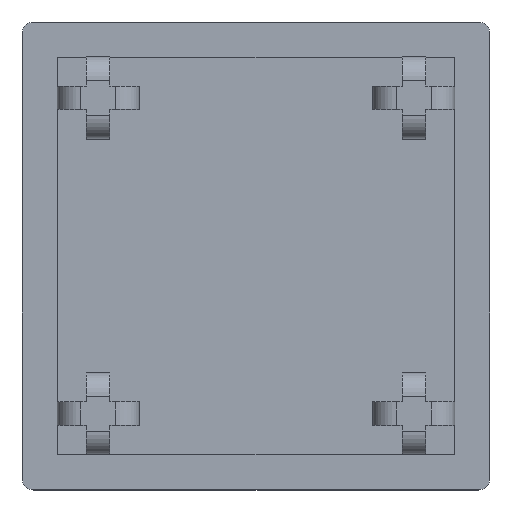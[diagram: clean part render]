
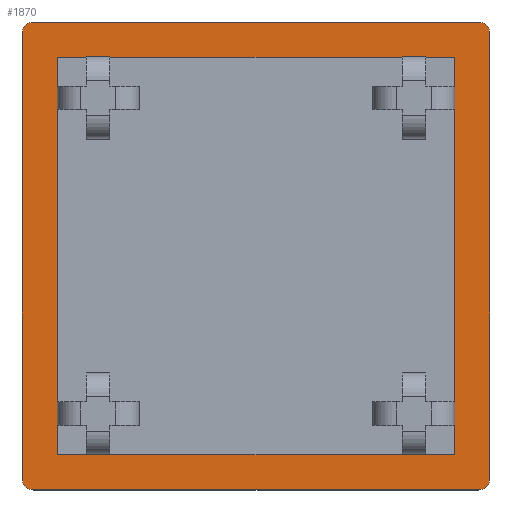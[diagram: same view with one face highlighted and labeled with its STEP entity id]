
A CAD part, top view. The second image highlights one B-rep face of the part: STEP entity #1870.
In plain terms, the highlighted planar face has unit normal (0, 0, 1).
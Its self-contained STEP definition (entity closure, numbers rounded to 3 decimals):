
#14=FACE_BOUND('',#231,.T.);
#43=PLANE('',#2019);
#135=FACE_OUTER_BOUND('',#230,.T.);
#230=EDGE_LOOP('',(#1417,#1418,#1419,#1420,#1421,#1422,#1423,#1424));
#231=EDGE_LOOP('',(#1425,#1426,#1427,#1428,#1429,#1430,#1431,#1432,#1433,
#1434,#1435,#1436,#1437,#1438,#1439,#1440,#1441,#1442,#1443,#1444));
#289=LINE('',#2590,#509);
#322=LINE('',#2673,#542);
#331=LINE('',#2696,#551);
#355=LINE('',#2758,#575);
#413=LINE('',#2909,#633);
#414=LINE('',#2913,#634);
#415=LINE('',#2917,#635);
#416=LINE('',#2920,#636);
#417=LINE('',#2922,#637);
#418=LINE('',#2923,#638);
#419=LINE('',#2925,#639);
#420=LINE('',#2926,#640);
#421=LINE('',#2928,#641);
#422=LINE('',#2929,#642);
#423=LINE('',#2931,#643);
#424=LINE('',#2933,#644);
#425=LINE('',#2935,#645);
#426=LINE('',#2936,#646);
#427=LINE('',#2937,#647);
#428=LINE('',#2939,#648);
#429=LINE('',#2941,#649);
#430=LINE('',#2942,#650);
#431=LINE('',#2943,#651);
#432=LINE('',#2944,#652);
#509=VECTOR('',#2095,1.);
#542=VECTOR('',#2166,1.);
#551=VECTOR('',#2185,1.);
#575=VECTOR('',#2239,1.);
#633=VECTOR('',#2369,19.);
#634=VECTOR('',#2372,19.);
#635=VECTOR('',#2375,19.);
#636=VECTOR('',#2378,19.);
#637=VECTOR('',#2379,1.25);
#638=VECTOR('',#2380,12.5);
#639=VECTOR('',#2381,1.25);
#640=VECTOR('',#2382,1.25);
#641=VECTOR('',#2383,1.);
#642=VECTOR('',#2384,12.5);
#643=VECTOR('',#2385,1.);
#644=VECTOR('',#2386,1.25);
#645=VECTOR('',#2387,1.25);
#646=VECTOR('',#2388,1.);
#647=VECTOR('',#2389,12.5);
#648=VECTOR('',#2390,1.);
#649=VECTOR('',#2391,1.25);
#650=VECTOR('',#2392,1.25);
#651=VECTOR('',#2393,12.5);
#652=VECTOR('',#2394,1.25);
#753=CIRCLE('',#2017,0.5);
#755=CIRCLE('',#2020,0.5);
#756=CIRCLE('',#2021,0.5);
#757=CIRCLE('',#2022,0.5);
#765=VERTEX_POINT('',#2578);
#769=VERTEX_POINT('',#2588);
#785=VERTEX_POINT('',#2630);
#796=VERTEX_POINT('',#2661);
#800=VERTEX_POINT('',#2671);
#805=VERTEX_POINT('',#2684);
#809=VERTEX_POINT('',#2694);
#828=VERTEX_POINT('',#2746);
#832=VERTEX_POINT('',#2756);
#852=VERTEX_POINT('',#2812);
#879=VERTEX_POINT('',#2881);
#882=VERTEX_POINT('',#2891);
#885=VERTEX_POINT('',#2899);
#886=VERTEX_POINT('',#2900);
#889=VERTEX_POINT('',#2908);
#890=VERTEX_POINT('',#2910);
#891=VERTEX_POINT('',#2912);
#892=VERTEX_POINT('',#2914);
#893=VERTEX_POINT('',#2916);
#894=VERTEX_POINT('',#2918);
#895=VERTEX_POINT('',#2921);
#896=VERTEX_POINT('',#2924);
#897=VERTEX_POINT('',#2927);
#898=VERTEX_POINT('',#2930);
#899=VERTEX_POINT('',#2932);
#900=VERTEX_POINT('',#2934);
#901=VERTEX_POINT('',#2938);
#902=VERTEX_POINT('',#2940);
#939=EDGE_CURVE('',#769,#765,#289,.T.);
#980=EDGE_CURVE('',#800,#796,#322,.T.);
#991=EDGE_CURVE('',#809,#805,#331,.T.);
#1021=EDGE_CURVE('',#832,#828,#355,.T.);
#1091=EDGE_CURVE('',#885,#886,#753,.T.);
#1095=EDGE_CURVE('',#885,#889,#413,.T.);
#1096=EDGE_CURVE('',#890,#889,#755,.T.);
#1097=EDGE_CURVE('',#890,#891,#414,.T.);
#1098=EDGE_CURVE('',#892,#891,#756,.T.);
#1099=EDGE_CURVE('',#892,#893,#415,.T.);
#1100=EDGE_CURVE('',#894,#893,#757,.T.);
#1101=EDGE_CURVE('',#894,#886,#416,.T.);
#1102=EDGE_CURVE('',#895,#796,#417,.T.);
#1103=EDGE_CURVE('',#800,#828,#418,.T.);
#1104=EDGE_CURVE('',#832,#896,#419,.T.);
#1105=EDGE_CURVE('',#896,#852,#420,.T.);
#1106=EDGE_CURVE('',#897,#852,#421,.T.);
#1107=EDGE_CURVE('',#897,#882,#422,.T.);
#1108=EDGE_CURVE('',#898,#882,#423,.T.);
#1109=EDGE_CURVE('',#898,#899,#424,.T.);
#1110=EDGE_CURVE('',#899,#900,#425,.T.);
#1111=EDGE_CURVE('',#879,#900,#426,.T.);
#1112=EDGE_CURVE('',#879,#785,#427,.T.);
#1113=EDGE_CURVE('',#901,#785,#428,.T.);
#1114=EDGE_CURVE('',#901,#902,#429,.T.);
#1115=EDGE_CURVE('',#902,#765,#430,.T.);
#1116=EDGE_CURVE('',#769,#805,#431,.T.);
#1117=EDGE_CURVE('',#809,#895,#432,.T.);
#1417=ORIENTED_EDGE('',*,*,#1091,.F.);
#1418=ORIENTED_EDGE('',*,*,#1095,.T.);
#1419=ORIENTED_EDGE('',*,*,#1096,.F.);
#1420=ORIENTED_EDGE('',*,*,#1097,.T.);
#1421=ORIENTED_EDGE('',*,*,#1098,.F.);
#1422=ORIENTED_EDGE('',*,*,#1099,.T.);
#1423=ORIENTED_EDGE('',*,*,#1100,.F.);
#1424=ORIENTED_EDGE('',*,*,#1101,.T.);
#1425=ORIENTED_EDGE('',*,*,#1102,.T.);
#1426=ORIENTED_EDGE('',*,*,#980,.F.);
#1427=ORIENTED_EDGE('',*,*,#1103,.T.);
#1428=ORIENTED_EDGE('',*,*,#1021,.F.);
#1429=ORIENTED_EDGE('',*,*,#1104,.T.);
#1430=ORIENTED_EDGE('',*,*,#1105,.T.);
#1431=ORIENTED_EDGE('',*,*,#1106,.F.);
#1432=ORIENTED_EDGE('',*,*,#1107,.T.);
#1433=ORIENTED_EDGE('',*,*,#1108,.F.);
#1434=ORIENTED_EDGE('',*,*,#1109,.T.);
#1435=ORIENTED_EDGE('',*,*,#1110,.T.);
#1436=ORIENTED_EDGE('',*,*,#1111,.F.);
#1437=ORIENTED_EDGE('',*,*,#1112,.T.);
#1438=ORIENTED_EDGE('',*,*,#1113,.F.);
#1439=ORIENTED_EDGE('',*,*,#1114,.T.);
#1440=ORIENTED_EDGE('',*,*,#1115,.T.);
#1441=ORIENTED_EDGE('',*,*,#939,.F.);
#1442=ORIENTED_EDGE('',*,*,#1116,.T.);
#1443=ORIENTED_EDGE('',*,*,#991,.F.);
#1444=ORIENTED_EDGE('',*,*,#1117,.T.);
#1870=ADVANCED_FACE('',(#135,#14),#43,.T.);
#2017=AXIS2_PLACEMENT_3D('',#2901,#2361,#2362);
#2019=AXIS2_PLACEMENT_3D('',#2907,#2367,#2368);
#2020=AXIS2_PLACEMENT_3D('',#2911,#2370,#2371);
#2021=AXIS2_PLACEMENT_3D('',#2915,#2373,#2374);
#2022=AXIS2_PLACEMENT_3D('',#2919,#2376,#2377);
#2095=DIRECTION('',(0.,1.,0.));
#2166=DIRECTION('',(1.,0.,0.));
#2185=DIRECTION('',(0.,1.,0.));
#2239=DIRECTION('',(1.,0.,0.));
#2361=DIRECTION('center_axis',(0.,0.,-1.));
#2362=DIRECTION('ref_axis',(0.707,0.707,0.));
#2367=DIRECTION('center_axis',(0.,0.,1.));
#2368=DIRECTION('ref_axis',(1.,0.,0.));
#2369=DIRECTION('',(-1.,0.,0.));
#2370=DIRECTION('center_axis',(0.,0.,-1.));
#2371=DIRECTION('ref_axis',(-0.707,0.707,0.));
#2372=DIRECTION('',(0.,-1.,0.));
#2373=DIRECTION('center_axis',(0.,0.,-1.));
#2374=DIRECTION('ref_axis',(-0.707,-0.707,0.));
#2375=DIRECTION('',(1.,0.,0.));
#2376=DIRECTION('center_axis',(0.,0.,-1.));
#2377=DIRECTION('ref_axis',(0.707,-0.707,0.));
#2378=DIRECTION('',(0.,1.,0.));
#2379=DIRECTION('',(-1.,0.,0.));
#2380=DIRECTION('',(-1.,0.,0.));
#2381=DIRECTION('',(-1.,0.,0.));
#2382=DIRECTION('',(0.,1.,0.));
#2383=DIRECTION('',(0.,-1.,0.));
#2384=DIRECTION('',(0.,1.,0.));
#2385=DIRECTION('',(0.,-1.,0.));
#2386=DIRECTION('',(0.,1.,0.));
#2387=DIRECTION('',(1.,0.,0.));
#2388=DIRECTION('',(-1.,0.,0.));
#2389=DIRECTION('',(1.,0.,0.));
#2390=DIRECTION('',(-1.,0.,0.));
#2391=DIRECTION('',(1.,0.,0.));
#2392=DIRECTION('',(0.,-1.,0.));
#2393=DIRECTION('',(0.,-1.,0.));
#2394=DIRECTION('',(0.,-1.,0.));
#2578=CARTESIAN_POINT('',(18.597,17.173,3.));
#2588=CARTESIAN_POINT('',(18.597,16.173,3.));
#2590=CARTESIAN_POINT('',(18.597,13.048,3.));
#2630=CARTESIAN_POINT('',(16.347,18.423,3.));
#2661=CARTESIAN_POINT('',(17.347,1.423,3.));
#2671=CARTESIAN_POINT('',(16.347,1.423,3.));
#2673=CARTESIAN_POINT('',(13.222,1.423,3.));
#2684=CARTESIAN_POINT('',(18.597,3.673,3.));
#2694=CARTESIAN_POINT('',(18.597,2.673,3.));
#2696=CARTESIAN_POINT('',(18.597,6.298,3.));
#2746=CARTESIAN_POINT('',(3.847,1.423,3.));
#2756=CARTESIAN_POINT('',(2.847,1.423,3.));
#2758=CARTESIAN_POINT('',(6.472,1.423,3.));
#2812=CARTESIAN_POINT('',(1.597,2.673,3.));
#2881=CARTESIAN_POINT('',(3.847,18.423,3.));
#2891=CARTESIAN_POINT('',(1.597,16.173,3.));
#2899=CARTESIAN_POINT('',(19.597,19.923,3.));
#2900=CARTESIAN_POINT('',(20.097,19.423,3.));
#2901=CARTESIAN_POINT('Origin',(19.597,19.423,3.));
#2907=CARTESIAN_POINT('Origin',(10.097,9.923,3.));
#2908=CARTESIAN_POINT('',(0.597,19.923,3.));
#2909=CARTESIAN_POINT('',(0.097,19.923,3.));
#2910=CARTESIAN_POINT('',(0.097,19.423,3.));
#2911=CARTESIAN_POINT('Origin',(0.597,19.423,3.));
#2912=CARTESIAN_POINT('',(0.097,0.423,3.));
#2913=CARTESIAN_POINT('',(0.097,-0.077,3.));
#2914=CARTESIAN_POINT('',(0.597,-0.077,3.));
#2915=CARTESIAN_POINT('Origin',(0.597,0.423,3.));
#2916=CARTESIAN_POINT('',(19.597,-0.077,3.));
#2917=CARTESIAN_POINT('',(20.097,-0.077,3.));
#2918=CARTESIAN_POINT('',(20.097,0.423,3.));
#2919=CARTESIAN_POINT('Origin',(19.597,0.423,3.));
#2920=CARTESIAN_POINT('',(20.097,19.923,3.));
#2921=CARTESIAN_POINT('',(18.597,1.423,3.));
#2922=CARTESIAN_POINT('',(13.722,1.423,3.));
#2923=CARTESIAN_POINT('',(13.722,1.423,3.));
#2924=CARTESIAN_POINT('',(1.597,1.423,3.));
#2925=CARTESIAN_POINT('',(13.722,1.423,3.));
#2926=CARTESIAN_POINT('',(1.597,6.298,3.));
#2927=CARTESIAN_POINT('',(1.597,3.673,3.));
#2928=CARTESIAN_POINT('',(1.597,6.798,3.));
#2929=CARTESIAN_POINT('',(1.597,6.298,3.));
#2930=CARTESIAN_POINT('',(1.597,17.173,3.));
#2931=CARTESIAN_POINT('',(1.597,13.548,3.));
#2932=CARTESIAN_POINT('',(1.597,18.423,3.));
#2933=CARTESIAN_POINT('',(1.597,6.298,3.));
#2934=CARTESIAN_POINT('',(2.847,18.423,3.));
#2935=CARTESIAN_POINT('',(6.472,18.423,3.));
#2936=CARTESIAN_POINT('',(6.972,18.423,3.));
#2937=CARTESIAN_POINT('',(6.472,18.423,3.));
#2938=CARTESIAN_POINT('',(17.347,18.423,3.));
#2939=CARTESIAN_POINT('',(13.722,18.423,3.));
#2940=CARTESIAN_POINT('',(18.597,18.423,3.));
#2941=CARTESIAN_POINT('',(6.472,18.423,3.));
#2942=CARTESIAN_POINT('',(18.597,13.548,3.));
#2943=CARTESIAN_POINT('',(18.597,13.548,3.));
#2944=CARTESIAN_POINT('',(18.597,13.548,3.));
